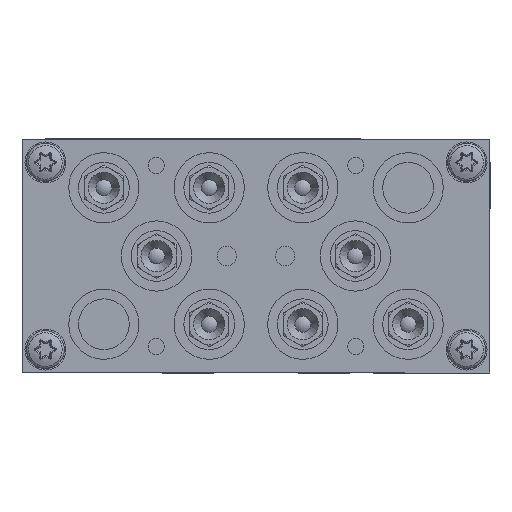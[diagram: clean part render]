
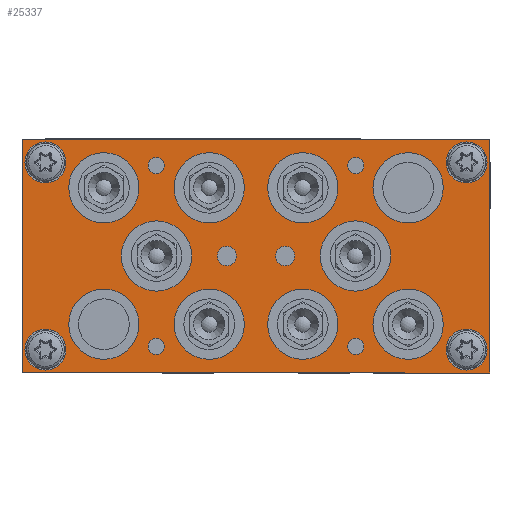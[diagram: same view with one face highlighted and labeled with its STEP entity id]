
A CAD part, left-side view. The second image highlights one B-rep face of the part: STEP entity #25337.
In plain terms, the highlighted planar face has unit normal (-1, 0, 0) as drawn and (0, 0, 1) by its records, which use the part's own axes.
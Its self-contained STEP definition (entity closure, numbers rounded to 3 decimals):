
#2387=LINE('',#60122,#3380);
#2391=LINE('',#60133,#3384);
#2395=LINE('',#60278,#3388);
#2396=LINE('',#60279,#3389);
#3380=VECTOR('',#31181,1000.);
#3384=VECTOR('',#31189,1000.);
#3388=VECTOR('',#31349,1000.);
#3389=VECTOR('',#31350,1000.);
#3774=PLANE('',#27067);
#8634=ORIENTED_EDGE('',*,*,#11330,.F.);
#8635=ORIENTED_EDGE('',*,*,#11331,.F.);
#8636=ORIENTED_EDGE('',*,*,#11332,.F.);
#8637=ORIENTED_EDGE('',*,*,#11333,.F.);
#8638=ORIENTED_EDGE('',*,*,#11334,.F.);
#8639=ORIENTED_EDGE('',*,*,#11335,.F.);
#8640=ORIENTED_EDGE('',*,*,#11336,.T.);
#8641=ORIENTED_EDGE('',*,*,#11337,.T.);
#8642=ORIENTED_EDGE('',*,*,#11338,.T.);
#8643=ORIENTED_EDGE('',*,*,#11339,.T.);
#8644=ORIENTED_EDGE('',*,*,#11340,.T.);
#8645=ORIENTED_EDGE('',*,*,#11341,.T.);
#8646=ORIENTED_EDGE('',*,*,#11342,.T.);
#8647=ORIENTED_EDGE('',*,*,#11272,.T.);
#8648=ORIENTED_EDGE('',*,*,#11343,.T.);
#8649=ORIENTED_EDGE('',*,*,#11277,.T.);
#8650=ORIENTED_EDGE('',*,*,#11344,.T.);
#8651=ORIENTED_EDGE('',*,*,#11345,.T.);
#8652=ORIENTED_EDGE('',*,*,#11346,.T.);
#8653=ORIENTED_EDGE('',*,*,#11347,.T.);
#8654=ORIENTED_EDGE('',*,*,#11348,.T.);
#8655=ORIENTED_EDGE('',*,*,#11349,.T.);
#8656=ORIENTED_EDGE('',*,*,#11350,.T.);
#8657=ORIENTED_EDGE('',*,*,#11351,.T.);
#11272=EDGE_CURVE('',#12906,#12905,#2387,.T.);
#11277=EDGE_CURVE('',#12911,#12910,#2391,.T.);
#11330=EDGE_CURVE('',#12961,#12961,#13757,.T.);
#11331=EDGE_CURVE('',#12962,#12962,#13758,.T.);
#11332=EDGE_CURVE('',#12963,#12963,#13759,.T.);
#11333=EDGE_CURVE('',#12964,#12964,#13760,.T.);
#11334=EDGE_CURVE('',#12965,#12965,#13761,.T.);
#11335=EDGE_CURVE('',#12966,#12966,#13762,.T.);
#11336=EDGE_CURVE('',#12967,#12967,#13763,.T.);
#11337=EDGE_CURVE('',#12968,#12968,#13764,.T.);
#11338=EDGE_CURVE('',#12969,#12969,#13765,.T.);
#11339=EDGE_CURVE('',#12970,#12970,#13766,.T.);
#11340=EDGE_CURVE('',#12971,#12971,#13767,.T.);
#11341=EDGE_CURVE('',#12972,#12972,#13768,.T.);
#11342=EDGE_CURVE('',#12973,#12973,#13769,.T.);
#11343=EDGE_CURVE('',#12905,#12911,#2395,.T.);
#11344=EDGE_CURVE('',#12910,#12906,#2396,.T.);
#11345=EDGE_CURVE('',#12974,#12974,#13770,.T.);
#11346=EDGE_CURVE('',#12975,#12975,#13771,.T.);
#11347=EDGE_CURVE('',#12976,#12976,#13772,.T.);
#11348=EDGE_CURVE('',#12977,#12977,#13773,.T.);
#11349=EDGE_CURVE('',#12978,#12978,#13774,.T.);
#11350=EDGE_CURVE('',#12979,#12979,#13775,.T.);
#11351=EDGE_CURVE('',#12980,#12980,#13776,.T.);
#12905=VERTEX_POINT('',#60121);
#12906=VERTEX_POINT('',#60123);
#12910=VERTEX_POINT('',#60132);
#12911=VERTEX_POINT('',#60134);
#12961=VERTEX_POINT('',#60253);
#12962=VERTEX_POINT('',#60255);
#12963=VERTEX_POINT('',#60257);
#12964=VERTEX_POINT('',#60259);
#12965=VERTEX_POINT('',#60261);
#12966=VERTEX_POINT('',#60263);
#12967=VERTEX_POINT('',#60265);
#12968=VERTEX_POINT('',#60267);
#12969=VERTEX_POINT('',#60269);
#12970=VERTEX_POINT('',#60271);
#12971=VERTEX_POINT('',#60273);
#12972=VERTEX_POINT('',#60275);
#12973=VERTEX_POINT('',#60277);
#12974=VERTEX_POINT('',#60281);
#12975=VERTEX_POINT('',#60283);
#12976=VERTEX_POINT('',#60285);
#12977=VERTEX_POINT('',#60287);
#12978=VERTEX_POINT('',#60289);
#12979=VERTEX_POINT('',#60291);
#12980=VERTEX_POINT('',#60293);
#13757=CIRCLE('',#27068,2.067);
#13758=CIRCLE('',#27069,2.067);
#13759=CIRCLE('',#27070,2.067);
#13760=CIRCLE('',#27071,2.067);
#13761=CIRCLE('',#27072,2.459);
#13762=CIRCLE('',#27073,2.459);
#13763=CIRCLE('',#27074,9.);
#13764=CIRCLE('',#27075,9.);
#13765=CIRCLE('',#27076,9.);
#13766=CIRCLE('',#27077,9.);
#13767=CIRCLE('',#27078,9.);
#13768=CIRCLE('',#27079,5.25);
#13769=CIRCLE('',#27080,5.25);
#13770=CIRCLE('',#27081,5.25);
#13771=CIRCLE('',#27082,9.);
#13772=CIRCLE('',#27083,9.);
#13773=CIRCLE('',#27084,9.);
#13774=CIRCLE('',#27085,9.);
#13775=CIRCLE('',#27086,9.);
#13776=CIRCLE('',#27087,5.25);
#15058=EDGE_LOOP('',(#8634));
#15059=EDGE_LOOP('',(#8635));
#15060=EDGE_LOOP('',(#8636));
#15061=EDGE_LOOP('',(#8637));
#15062=EDGE_LOOP('',(#8638));
#15063=EDGE_LOOP('',(#8639));
#15064=EDGE_LOOP('',(#8640));
#15065=EDGE_LOOP('',(#8641));
#15066=EDGE_LOOP('',(#8642));
#15067=EDGE_LOOP('',(#8643));
#15068=EDGE_LOOP('',(#8644));
#15069=EDGE_LOOP('',(#8645));
#15070=EDGE_LOOP('',(#8646));
#15071=EDGE_LOOP('',(#8647,#8648,#8649,#8650));
#15072=EDGE_LOOP('',(#8651));
#15073=EDGE_LOOP('',(#8652));
#15074=EDGE_LOOP('',(#8653));
#15075=EDGE_LOOP('',(#8654));
#15076=EDGE_LOOP('',(#8655));
#15077=EDGE_LOOP('',(#8656));
#15078=EDGE_LOOP('',(#8657));
#16475=FACE_BOUND('',#15058,.T.);
#16476=FACE_BOUND('',#15059,.T.);
#16477=FACE_BOUND('',#15060,.T.);
#16478=FACE_BOUND('',#15061,.T.);
#16479=FACE_BOUND('',#15062,.T.);
#16480=FACE_BOUND('',#15063,.T.);
#16481=FACE_BOUND('',#15064,.T.);
#16482=FACE_BOUND('',#15065,.T.);
#16483=FACE_BOUND('',#15066,.T.);
#16484=FACE_BOUND('',#15067,.T.);
#16485=FACE_BOUND('',#15068,.T.);
#16486=FACE_BOUND('',#15069,.T.);
#16487=FACE_BOUND('',#15070,.T.);
#16488=FACE_BOUND('',#15071,.T.);
#16489=FACE_BOUND('',#15072,.T.);
#16490=FACE_BOUND('',#15073,.T.);
#16491=FACE_BOUND('',#15074,.T.);
#16492=FACE_BOUND('',#15075,.T.);
#16493=FACE_BOUND('',#15076,.T.);
#16494=FACE_BOUND('',#15077,.T.);
#16495=FACE_BOUND('',#15078,.T.);
#25337=ADVANCED_FACE('',(#16475,#16476,#16477,#16478,#16479,#16480,#16481,
#16482,#16483,#16484,#16485,#16486,#16487,#16488,#16489,#16490,#16491,#16492,
#16493,#16494,#16495),#3774,.T.);
#27067=AXIS2_PLACEMENT_3D('',#60251,#31321,#31322);
#27068=AXIS2_PLACEMENT_3D('',#60252,#31323,#31324);
#27069=AXIS2_PLACEMENT_3D('',#60254,#31325,#31326);
#27070=AXIS2_PLACEMENT_3D('',#60256,#31327,#31328);
#27071=AXIS2_PLACEMENT_3D('',#60258,#31329,#31330);
#27072=AXIS2_PLACEMENT_3D('',#60260,#31331,#31332);
#27073=AXIS2_PLACEMENT_3D('',#60262,#31333,#31334);
#27074=AXIS2_PLACEMENT_3D('',#60264,#31335,#31336);
#27075=AXIS2_PLACEMENT_3D('',#60266,#31337,#31338);
#27076=AXIS2_PLACEMENT_3D('',#60268,#31339,#31340);
#27077=AXIS2_PLACEMENT_3D('',#60270,#31341,#31342);
#27078=AXIS2_PLACEMENT_3D('',#60272,#31343,#31344);
#27079=AXIS2_PLACEMENT_3D('',#60274,#31345,#31346);
#27080=AXIS2_PLACEMENT_3D('',#60276,#31347,#31348);
#27081=AXIS2_PLACEMENT_3D('',#60280,#31351,#31352);
#27082=AXIS2_PLACEMENT_3D('',#60282,#31353,#31354);
#27083=AXIS2_PLACEMENT_3D('',#60284,#31355,#31356);
#27084=AXIS2_PLACEMENT_3D('',#60286,#31357,#31358);
#27085=AXIS2_PLACEMENT_3D('',#60288,#31359,#31360);
#27086=AXIS2_PLACEMENT_3D('',#60290,#31361,#31362);
#27087=AXIS2_PLACEMENT_3D('',#60292,#31363,#31364);
#31181=DIRECTION('',(-1.,0.,0.));
#31189=DIRECTION('',(1.,0.,0.));
#31321=DIRECTION('',(0.,0.,1.));
#31322=DIRECTION('',(1.,0.,0.));
#31323=DIRECTION('',(0.,0.,1.));
#31324=DIRECTION('',(1.,0.,0.));
#31325=DIRECTION('',(0.,0.,1.));
#31326=DIRECTION('',(1.,0.,0.));
#31327=DIRECTION('',(0.,0.,1.));
#31328=DIRECTION('',(1.,0.,0.));
#31329=DIRECTION('',(0.,0.,1.));
#31330=DIRECTION('',(1.,0.,0.));
#31331=DIRECTION('',(0.,0.,1.));
#31332=DIRECTION('',(1.,0.,0.));
#31333=DIRECTION('',(0.,0.,1.));
#31334=DIRECTION('',(1.,0.,0.));
#31335=DIRECTION('',(0.,0.,-1.));
#31336=DIRECTION('',(1.,0.,0.));
#31337=DIRECTION('',(0.,0.,-1.));
#31338=DIRECTION('',(1.,0.,0.));
#31339=DIRECTION('',(0.,0.,-1.));
#31340=DIRECTION('',(1.,0.,0.));
#31341=DIRECTION('',(0.,0.,-1.));
#31342=DIRECTION('',(1.,0.,0.));
#31343=DIRECTION('',(0.,0.,-1.));
#31344=DIRECTION('',(1.,0.,0.));
#31345=DIRECTION('',(0.,0.,-1.));
#31346=DIRECTION('',(1.,0.,0.));
#31347=DIRECTION('',(0.,0.,-1.));
#31348=DIRECTION('',(1.,0.,0.));
#31349=DIRECTION('',(0.,-1.,0.));
#31350=DIRECTION('',(0.,1.,0.));
#31351=DIRECTION('',(0.,0.,-1.));
#31352=DIRECTION('',(1.,0.,0.));
#31353=DIRECTION('',(0.,0.,-1.));
#31354=DIRECTION('',(1.,0.,0.));
#31355=DIRECTION('',(0.,0.,-1.));
#31356=DIRECTION('',(1.,0.,0.));
#31357=DIRECTION('',(0.,0.,-1.));
#31358=DIRECTION('',(1.,0.,0.));
#31359=DIRECTION('',(0.,0.,-1.));
#31360=DIRECTION('',(1.,0.,0.));
#31361=DIRECTION('',(0.,0.,-1.));
#31362=DIRECTION('',(1.,0.,0.));
#31363=DIRECTION('',(0.,0.,-1.));
#31364=DIRECTION('',(1.,0.,0.));
#60121=CARTESIAN_POINT('',(-60.,30.,15.));
#60122=CARTESIAN_POINT('',(60.,30.,15.));
#60123=CARTESIAN_POINT('',(60.,30.,15.));
#60132=CARTESIAN_POINT('',(60.,-30.,15.));
#60133=CARTESIAN_POINT('',(-60.,-30.,15.));
#60134=CARTESIAN_POINT('',(-60.,-30.,15.));
#60251=CARTESIAN_POINT('',(-60.,30.,15.));
#60252=CARTESIAN_POINT('',(25.6,23.2,15.));
#60253=CARTESIAN_POINT('',(27.667,23.2,15.));
#60254=CARTESIAN_POINT('',(-25.6,23.2,15.));
#60255=CARTESIAN_POINT('',(-23.533,23.2,15.));
#60256=CARTESIAN_POINT('',(-25.6,-23.2,15.));
#60257=CARTESIAN_POINT('',(-23.533,-23.2,15.));
#60258=CARTESIAN_POINT('',(25.6,-23.2,15.));
#60259=CARTESIAN_POINT('',(27.667,-23.2,15.));
#60260=CARTESIAN_POINT('',(7.5,0.,15.));
#60261=CARTESIAN_POINT('',(9.959,0.,15.));
#60262=CARTESIAN_POINT('',(-7.5,0.,15.));
#60263=CARTESIAN_POINT('',(-5.041,0.,15.));
#60264=CARTESIAN_POINT('',(25.5,0.,15.));
#60265=CARTESIAN_POINT('',(34.5,0.,15.));
#60266=CARTESIAN_POINT('',(39.,17.5,15.));
#60267=CARTESIAN_POINT('',(48.,17.5,15.));
#60268=CARTESIAN_POINT('',(-39.,-17.5,15.));
#60269=CARTESIAN_POINT('',(-30.,-17.5,15.));
#60270=CARTESIAN_POINT('',(-12.,-17.5,15.));
#60271=CARTESIAN_POINT('',(-3.,-17.5,15.));
#60272=CARTESIAN_POINT('',(12.,17.5,15.));
#60273=CARTESIAN_POINT('',(21.,17.5,15.));
#60274=CARTESIAN_POINT('',(-54.,-24.,15.));
#60275=CARTESIAN_POINT('',(-48.75,-24.,15.));
#60276=CARTESIAN_POINT('',(54.,24.,15.));
#60277=CARTESIAN_POINT('',(59.25,24.,15.));
#60278=CARTESIAN_POINT('',(-60.,30.,15.));
#60279=CARTESIAN_POINT('',(60.,-30.,15.));
#60280=CARTESIAN_POINT('',(54.,-24.,15.));
#60281=CARTESIAN_POINT('',(59.25,-24.,15.));
#60282=CARTESIAN_POINT('',(-12.,17.5,15.));
#60283=CARTESIAN_POINT('',(-3.,17.5,15.));
#60284=CARTESIAN_POINT('',(12.,-17.5,15.));
#60285=CARTESIAN_POINT('',(21.,-17.5,15.));
#60286=CARTESIAN_POINT('',(-39.,17.5,15.));
#60287=CARTESIAN_POINT('',(-30.,17.5,15.));
#60288=CARTESIAN_POINT('',(39.,-17.5,15.));
#60289=CARTESIAN_POINT('',(48.,-17.5,15.));
#60290=CARTESIAN_POINT('',(-25.5,0.,15.));
#60291=CARTESIAN_POINT('',(-16.5,0.,15.));
#60292=CARTESIAN_POINT('',(-54.,24.,15.));
#60293=CARTESIAN_POINT('',(-48.75,24.,15.));
